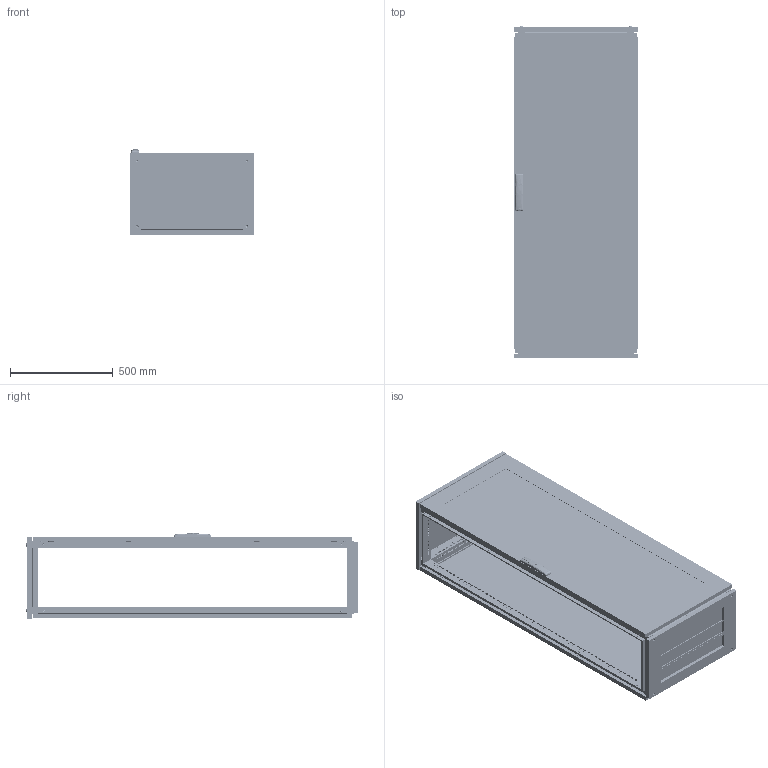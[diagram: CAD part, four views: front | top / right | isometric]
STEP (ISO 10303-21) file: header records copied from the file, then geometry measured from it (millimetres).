
FILE_DESCRIPTION (( 'STEP AP203' ), '1' );
FILE_NAME ('R5CQEN1664AX.STEP', '2025-05-07T11:26:51', ( '' ), ( '' ), 'SwSTEP 2.0', 'SolidWorks 2022', '' );
FILE_SCHEMA (( 'CONFIG_CONTROL_DESIGN' ));
Length unit declared in the file: millimetre
Products named in the file (65): TPA.08.0139.00.03.0; PF 5x10 KTB simple_600x400; RB.2172.00.00.1 simple; M6 MGR-MKO-0625 simple_Thread; R5NKTB - Assem simple_H=1600 R5NKTB64; RB.0528.04.00.0 СБ simple; RB.0562.01.00.0 СБ simple_-09; М6х12 A5100231_straight; 7 DIN 6799 Zinc simple; RB.2969.00.01.0 simple; RB.2499.01.00.0 СБ simple_-11; R5NCPTE - Assem simple_R5NCPTE1660; RB.1867.01.00.0 СБ simple_-54; M8x12 AC00C476 cl.8,8 Zinc_stright; M6x10 DIN 912 HX cl.8,8 Zinc_straight; TPA.08.0083.00.00.0 simple; RB.0054.01.01.0 simple_-11; M12x16 ISO 7380-1 HX cl.4,8 Zinc_straight; Pressing stud FH-M6-12_M6x12mm; M6x10 DIN 7500 M Torx cl.5.8 Zinc_straight; PF 7,5x15 CPE simple_1600x0600; M6 DIN 985 cl.6,0 Zinc_straight; M6x15 Erickson cl.4,8 Zinc; ATOS Traction guide ILY03.35; RB.0528.04.01.0 simple; RB.2456.00.00.0 simple; RB.1633.00.01.0 simple_-02; RB.2686.00.00.0 simple; M6x10 DIN 7500 E HX cl.5.8 Zinc_straight; RB.2680.00.00.0 СБ simple; TPA.08.0084.00.00.0 simple; RB.2969.00.00.0 СБ simple; AC00C446-R; RB.2696.00.00.0 simple; TPA.08.0139.00.01.0 simple; R5NCRE-Assem simple_R5NCRE1660; RB.2680.00.02.0 simple; RB.2685.00.00.0 simple; RB.2499.00.00.0 СБ simple_-12; RB.0528.00.01.0 simple_-03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
Assembly tree (173 placements, depth 5):
  R5CQEN1664AX
    R5NCPTE - Assem simple_R5NCPTE1660
      RB.0562.00.00.0 СБ simple_-09
        RB.0562.01.00.0 СБ simple_-09
          RB.0562.01.01.0 simple_-09
          М6х12 A5100231_straight  x7
          RB.2702.00.00.0 simple  x4
          PF 7,5x15 CPE simple_1600x0600
          Glass CPTE_1600x0600
          Glue CPTE simple_1600x0600
        Square cap 20x20 simple  x2
        M6x15 Erickson cl.4,8 Zinc  x2
        RB.0528.00.01.0 simple_-03  x2
        ATOS Traction guide ILY03.35  x4
        RB.2357.00.00.0 simple_-03
        RB.2680.00.00.0 СБ simple
          TPA.08.0139.00.01.0 simple
          RB.2680.00.01.0 simple
          RB.2680.00.02.0 simple  x2
        TPA.08.0139.00.03.0  x2
        M6 DIN 985 cl.6,0 Zinc_straight  x4
        4,0x16 F Torx Zinc (ART 88200)_thread  x2
        RB.0528.04.00.0 СБ simple  x2
          RB.0528.04.01.0 simple
          Pressing stud FH-M6-12_M6x12mm
      M6x10 DIN 912 HX cl.8,8 Zinc_straight  x8
      4.8x13 DIN 7981 PH Zinc_straight
      7 DIN 6799 Zinc simple  x4
      RB.2968.00.00.0 simple  x4
      RB.2969.00.00.0 СБ simple  x4
        RB.2969.00.01.0 simple
        Pin 4x16 DIN 7 AISI 303 (A1) simple
        M6 MGR-MKO-0625 simple_Thread
      AC00C446-R
      RB.2696.00.00.0 simple  x4
      7 DIN 6799 Zinc  x4
    R5NCRE-Assem simple_R5NCRE1660
      RB.2052.00.00.0 СБ simple_-11
        RB.2052.01.00.0 СБ simple_-11
          RB.0054.01.01.0 simple_-11
          М6х12 A5100231_straight  x4
        PF 7x14 CRE simple_1600x0600
      RB.2172.00.00.1 simple  x8
      M6x10 DIN 7500 E HX cl.5.8 Zinc_straight  x8
      M6x10 DIN 7500 M Torx cl.5.8 Zinc_straight  x8
    R5NKMN - Assem simple_R5NKMN16 (600х400)
      RB.2528.00.00.0 simple_-03  x4
    R5NKTB - Assem simple_H=1600 R5NKTB64
      RB.2499.00.00.0 СБ simple_-12
        RB.2499.01.00.0 СБ simple_-11
          RB.1633.00.01.0 simple_-02  x2
          RB.1633.00.02.0 simple_default  x2
          PF 5x10 KTB simple_600x400
        RB.2457.00.00.0 СБ simple_-12
          RB.2455.00.00.0 simple_-02  x2
          RB.2456.00.00.0 simple  x2
          TPA.08.0084.00.00.0 simple  x2
          TPA.08.0083.00.00.0 simple  x2
          M8x12 AC00C476 cl.8,8 Zinc_stright  x4
        RB.1728.00.00.0 simple_-01  x3
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Bounding box: 600 x 1613.3 x 414.74 mm (x, y, z)
Volume: 12003954.8 mm3; surface area: 10319652.1 mm2
Topology: 176 solids, 192 shells, 19421 faces, 54687 edges, 35939 vertices
Faces by surface type: plane 11035, cylinder 6845, cone 704, bspline 435, torus 368, sphere 34
Entity records: 197245 total; most frequent: CARTESIAN_POINT 50667, ORIENTED_EDGE 28874, DIRECTION 27311, EDGE_CURVE 14463, VERTEX_POINT 9562, AXIS2_PLACEMENT_3D 9149, LINE 9013, VECTOR 9013
